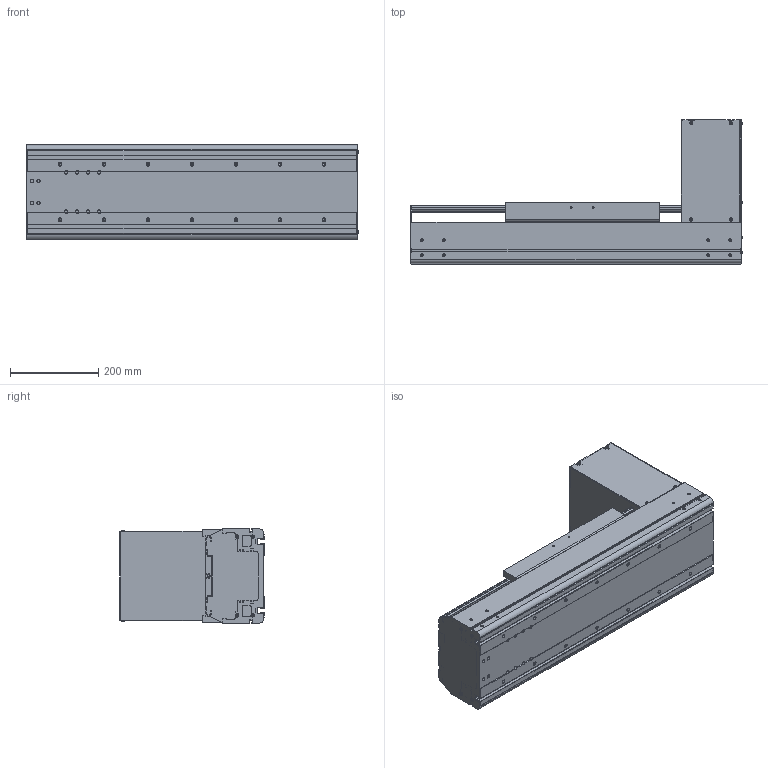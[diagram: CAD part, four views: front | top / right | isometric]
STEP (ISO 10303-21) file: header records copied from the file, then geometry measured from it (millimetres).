
FILE_DESCRIPTION((''),'2;1');
FILE_NAME('BE60J-BT-L19N-15_IGS_PRT','2017-06-18T',(' '),(''),'PRO/ENGINEER BY PARAMETRIC TECHNOLOGY CORPORATION, 2015030','PRO/ENGINEER BY PARAMETRIC TECHNOLOGY CORPORATION, 2015030','');
FILE_SCHEMA(('CONFIG_CONTROL_DESIGN'));
Length unit declared in the file: millimetre
Products named in the file (1): BE60J-BT-L19N-15_IGS_PRT
Bounding box: 754.4 x 327.5 x 214 mm (x, y, z)
Volume: 5637832.3 mm3; surface area: 2060327.4 mm2
Topology: 1 solids, 155 shells, 1794 faces, 4928 edges, 3242 vertices
Faces by surface type: cylinder 804, plane 772, cone 122, torus 48, sphere 48
Entity records: 58572 total; most frequent: CARTESIAN_POINT 12638, DIRECTION 9741, ORIENTED_EDGE 9056, EDGE_CURVE 4824, AXIS2_PLACEMENT_3D 3587, VERTEX_POINT 3236, VECTOR 2567, LINE 2567
